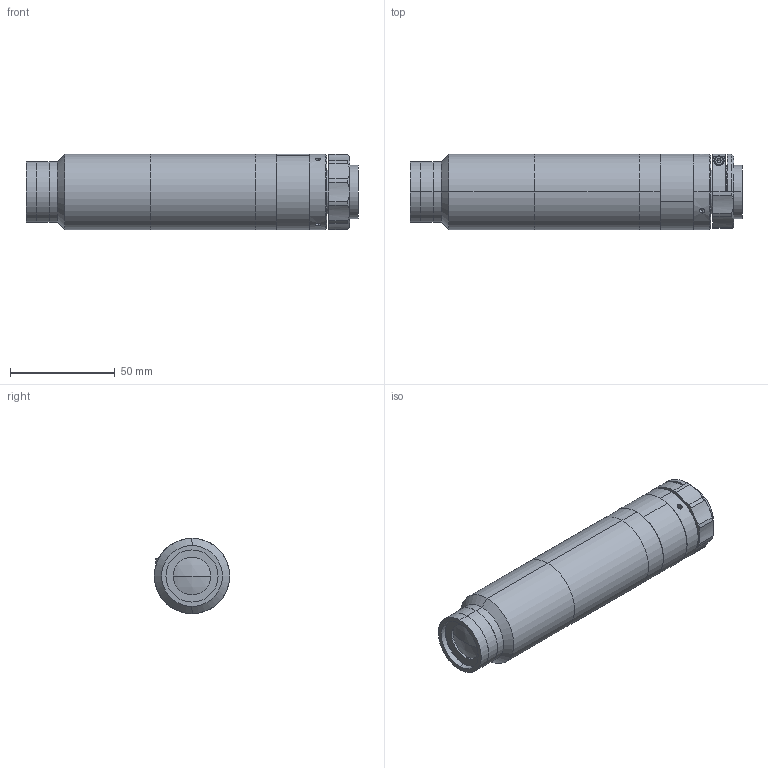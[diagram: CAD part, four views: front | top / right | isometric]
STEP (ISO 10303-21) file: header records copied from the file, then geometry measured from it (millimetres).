
FILE_DESCRIPTION (( 'STEP AP203' ), '1' );
FILE_NAME ('XF-MH1X124.STEP', '2020-08-24T07:11:33', ( 'canrill-02' ), ( '' ), 'SwSTEP 2.0', 'SolidWorks 2014', '' );
FILE_SCHEMA (( 'CONFIG_CONTROL_DESIGN' ));
Length unit declared in the file: millimetre
Products named in the file (1): XF-MH1X124
Bounding box: 158.5 x 36 x 36 mm (x, y, z)
Surface area: 24256.2 mm2 (no closed solid volume)
Topology: 0 solids, 13 shells, 105 faces, 280 edges, 190 vertices
Faces by surface type: cylinder 51, plane 35, cone 15, sphere 2, torus 2
Entity records: 3657 total; most frequent: CARTESIAN_POINT 895, DIRECTION 619, ORIENTED_EDGE 471, EDGE_CURVE 278, AXIS2_PLACEMENT_3D 258, VERTEX_POINT 190, CIRCLE 152, EDGE_LOOP 131
